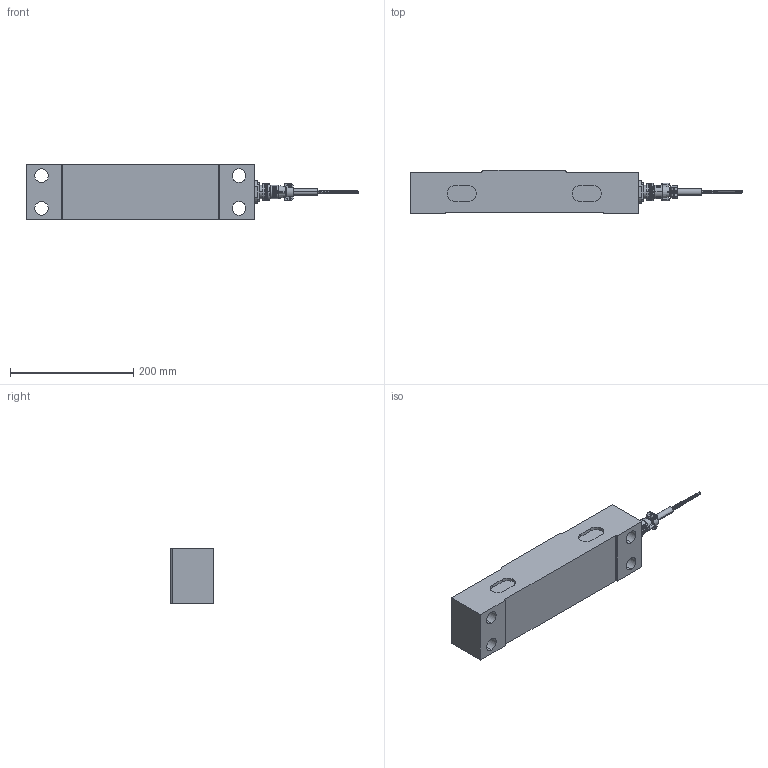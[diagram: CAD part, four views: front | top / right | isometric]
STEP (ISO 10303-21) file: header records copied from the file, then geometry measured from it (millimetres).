
FILE_DESCRIPTION (( 'STEP AP214' ), '1' );
FILE_NAME ('DSA-R 250 kN Load Cell.STEP', '2021-06-17T08:35:20', ( '' ), ( '' ), 'SwSTEP 2.0', 'SolidWorks 2021', '' );
FILE_SCHEMA (( 'AUTOMOTIVE_DESIGN' ));
Length unit declared in the file: millimetre
Products named in the file (6): M26x1.5 - Chassikontakt - 600214r1; Teflon 6-Cond; DSA-R 250kN; DSA-R 250 kN Load Cell; Apparatintag 14S-2 6 P, Amphenol ; Amphenol DS3106F-14S-2S
Assembly tree (5 placements, depth 2):
  DSA-R 250 kN Load Cell
    DSA-R 250kN
    Apparatintag 14S-2 6 P, Amphenol 
    M26x1.5 - Chassikontakt - 600214r1
    Amphenol DS3106F-14S-2S
    Teflon 6-Cond
Bounding box: 537.7 x 70 x 90 mm (x, y, z)
Volume: 2096038.1 mm3; surface area: 176484.3 mm2
Topology: 12 solids, 12 shells, 1302 faces, 3543 edges, 2325 vertices
Faces by surface type: plane 1016, cylinder 191, bspline 37, torus 27, cone 23, sphere 8
Entity records: 59000 total; most frequent: CARTESIAN_POINT 13704, ORIENTED_EDGE 7042, DIRECTION 6537, EDGE_CURVE 3521, VERTEX_POINT 2325, AXIS2_PLACEMENT_3D 2281, VECTOR 1975, LINE 1975
